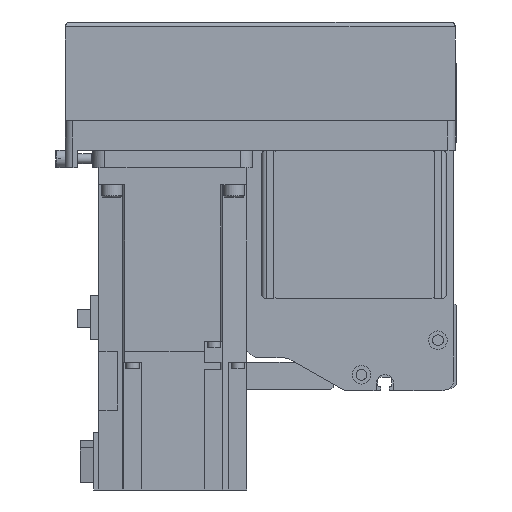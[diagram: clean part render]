
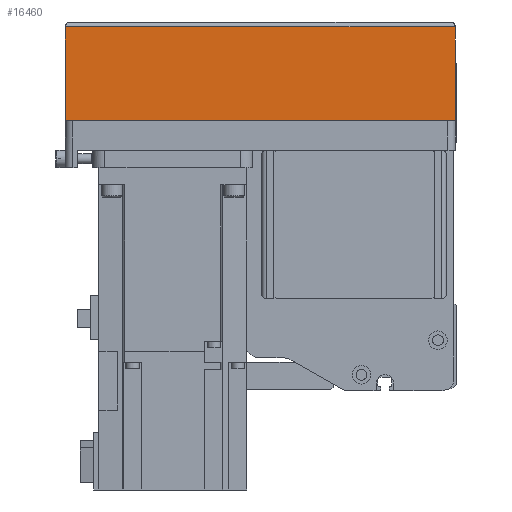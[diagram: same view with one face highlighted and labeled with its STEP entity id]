
A CAD part, left-side view. The second image highlights one B-rep face of the part: STEP entity #16460.
In plain terms, the highlighted planar face has unit normal (-1, 0, 0) as drawn and (0, 1, 0) by its records, which use the part's own axes.
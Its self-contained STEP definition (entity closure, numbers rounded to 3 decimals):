
#2592=ORIENTED_EDGE('',*,*,#6617,.F.);
#2593=ORIENTED_EDGE('',*,*,#6686,.F.);
#2594=ORIENTED_EDGE('',*,*,#6634,.T.);
#2595=ORIENTED_EDGE('',*,*,#6609,.T.);
#6609=EDGE_CURVE('',#8808,#8807,#10485,.T.);
#6617=EDGE_CURVE('',#8815,#8807,#10493,.T.);
#6634=EDGE_CURVE('',#8825,#8808,#10506,.T.);
#6686=EDGE_CURVE('',#8825,#8815,#10535,.T.);
#8807=VERTEX_POINT('',#25300);
#8808=VERTEX_POINT('',#25302);
#8815=VERTEX_POINT('',#25319);
#8825=VERTEX_POINT('',#25350);
#10485=LINE('',#25301,#12065);
#10493=LINE('',#25318,#12073);
#10506=LINE('',#25349,#12086);
#10535=LINE('',#25444,#12115);
#12065=VECTOR('',#20253,1000.);
#12073=VECTOR('',#20265,1000.);
#12086=VECTOR('',#20294,1000.);
#12115=VECTOR('',#20411,1000.);
#13522=EDGE_LOOP('',(#2592,#2593,#2594,#2595));
#14722=FACE_BOUND('',#13522,.T.);
#15751=PLANE('',#17661);
#16460=ADVANCED_FACE('',(#14722),#15751,.T.);
#17661=AXIS2_PLACEMENT_3D('',#25443,#20409,#20410);
#20253=DIRECTION('',(1.,0.,0.));
#20265=DIRECTION('',(0.,0.,1.));
#20294=DIRECTION('',(0.,0.,1.));
#20409=DIRECTION('',(0.,1.,0.));
#20410=DIRECTION('',(0.,0.,1.));
#20411=DIRECTION('',(1.,0.,0.));
#25300=CARTESIAN_POINT('',(0.,39.,-12.1));
#25301=CARTESIAN_POINT('',(-158.,39.,-12.1));
#25302=CARTESIAN_POINT('',(-158.,39.,-12.1));
#25318=CARTESIAN_POINT('',(0.,39.,-50.));
#25319=CARTESIAN_POINT('',(0.,39.,-50.));
#25349=CARTESIAN_POINT('',(-158.,39.,-50.));
#25350=CARTESIAN_POINT('',(-158.,39.,-50.));
#25443=CARTESIAN_POINT('',(-158.,39.,-50.));
#25444=CARTESIAN_POINT('',(-158.,39.,-50.));
